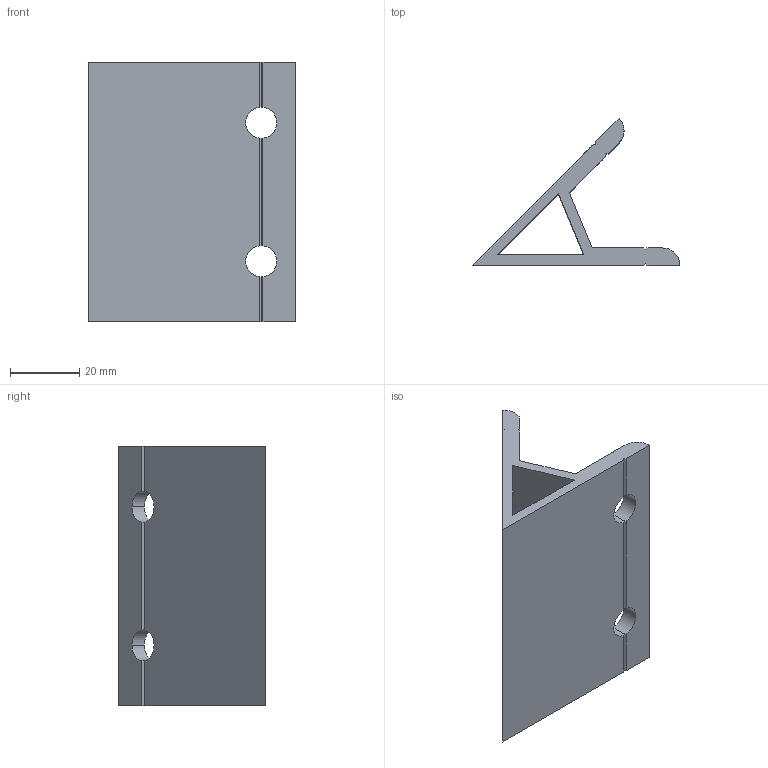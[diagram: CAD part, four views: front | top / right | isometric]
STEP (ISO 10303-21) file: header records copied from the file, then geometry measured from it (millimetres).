
FILE_DESCRIPTION (( 'STEP AP203' ), '1' );
FILE_NAME ('WA7545-8.STEP', '2024-02-19T06:15:17', ( '' ), ( '' ), 'SwSTEP 2.0', 'SolidWorks 2022', '' );
FILE_SCHEMA (( 'CONFIG_CONTROL_DESIGN' ));
Length unit declared in the file: millimetre
Products named in the file (1): WA7545-8
Bounding box: 60 x 42.43 x 75 mm (x, y, z)
Volume: 35298.4 mm3; surface area: 20832.5 mm2
Topology: 1 solids, 1 shells, 49 faces, 157 edges, 102 vertices
Faces by surface type: plane 38, cylinder 11
Entity records: 1814 total; most frequent: CARTESIAN_POINT 405, ORIENTED_EDGE 314, DIRECTION 255, EDGE_CURVE 157, VERTEX_POINT 102, VECTOR 95, LINE 95, AXIS2_PLACEMENT_3D 80
